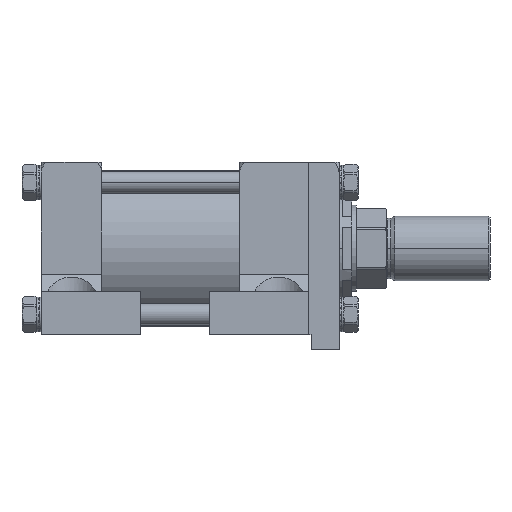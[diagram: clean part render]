
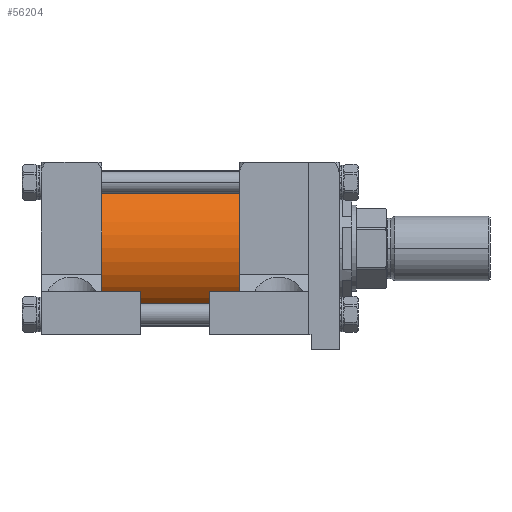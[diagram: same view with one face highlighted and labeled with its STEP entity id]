
A CAD part, front view. The second image highlights one B-rep face of the part: STEP entity #56204.
In plain terms, the highlighted cylindrical face has radius 57.15 mm (diameter 114.3 mm), a partial arc.
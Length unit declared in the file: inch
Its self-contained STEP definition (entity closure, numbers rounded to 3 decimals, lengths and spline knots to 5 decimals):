
#23 = EDGE_CURVE ( 'NONE', #31589, #26594, #29599, .T. ) ;
#400 = LINE ( 'NONE', #48373, #41185 ) ;
#986 = AXIS2_PLACEMENT_3D ( 'NONE', #52592, #57948, #15829 ) ;
#3748 = DIRECTION ( 'NONE',  ( 0., 1., 0. ) ) ;
#9419 = AXIS2_PLACEMENT_3D ( 'NONE', #19471, #61559, #27937 ) ;
#10684 = AXIS2_PLACEMENT_3D ( 'NONE', #55743, #18043, #3748 ) ;
#10713 = DIRECTION ( 'NONE',  ( 1., 0., 0. ) ) ;
#13006 = VERTEX_POINT ( 'NONE', #53655 ) ;
#13015 = DIRECTION ( 'NONE',  ( 1., 0., 0. ) ) ;
#13047 = ORIENTED_EDGE ( 'NONE', *, *, #21223, .T. ) ;
#15829 = DIRECTION ( 'NONE',  ( 0., 0., -1. ) ) ;
#18043 = DIRECTION ( 'NONE',  ( 1., 0., 0. ) ) ;
#18124 = EDGE_LOOP ( 'NONE', ( #61686, #13047, #44551, #44869 ) ) ;
#19471 = CARTESIAN_POINT ( 'NONE',  ( -8.5, 0., 0. ) ) ;
#21223 = EDGE_CURVE ( 'NONE', #61182, #13006, #33329, .T. ) ;
#21821 = EDGE_CURVE ( 'NONE', #13006, #26594, #400, .T. ) ;
#23327 = LINE ( 'NONE', #46322, #46645 ) ;
#26594 = VERTEX_POINT ( 'NONE', #40571 ) ;
#27937 = DIRECTION ( 'NONE',  ( 0., 1., 0. ) ) ;
#29590 = FACE_OUTER_BOUND ( 'NONE', #18124, .T. ) ;
#29599 = CIRCLE ( 'NONE', #10684, 2.25 ) ;
#30602 = CARTESIAN_POINT ( 'NONE',  ( -4., 0., 2.25 ) ) ;
#31589 = VERTEX_POINT ( 'NONE', #30602 ) ;
#31930 = EDGE_CURVE ( 'NONE', #61182, #31589, #23327, .T. ) ;
#33329 = CIRCLE ( 'NONE', #9419, 2.25 ) ;
#40571 = CARTESIAN_POINT ( 'NONE',  ( -4., 0., -2.25 ) ) ;
#41185 = VECTOR ( 'NONE', #10713, 39.37008 ) ;
#44551 = ORIENTED_EDGE ( 'NONE', *, *, #21821, .T. ) ;
#44869 = ORIENTED_EDGE ( 'NONE', *, *, #23, .F. ) ;
#46322 = CARTESIAN_POINT ( 'NONE',  ( -8.5, 0., 2.25 ) ) ;
#46645 = VECTOR ( 'NONE', #13015, 39.37008 ) ;
#48373 = CARTESIAN_POINT ( 'NONE',  ( -8.5, 0., -2.25 ) ) ;
#52592 = CARTESIAN_POINT ( 'NONE',  ( -8.5, 0., 0. ) ) ;
#53655 = CARTESIAN_POINT ( 'NONE',  ( -8.5, 0., -2.25 ) ) ;
#55743 = CARTESIAN_POINT ( 'NONE',  ( -4., 0., 0. ) ) ;
#56204 = ADVANCED_FACE ( 'NONE', ( #29590 ), #58556, .T. ) ;
#57019 = CARTESIAN_POINT ( 'NONE',  ( -8.5, 0., 2.25 ) ) ;
#57948 = DIRECTION ( 'NONE',  ( 1., 0., 0. ) ) ;
#58556 = CYLINDRICAL_SURFACE ( 'NONE', #986, 2.25 ) ;
#61182 = VERTEX_POINT ( 'NONE', #57019 ) ;
#61559 = DIRECTION ( 'NONE',  ( 1., 0., 0. ) ) ;
#61686 = ORIENTED_EDGE ( 'NONE', *, *, #31930, .F. ) ;
